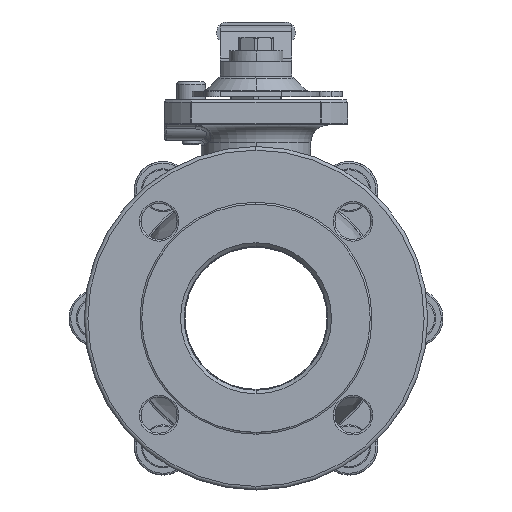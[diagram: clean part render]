
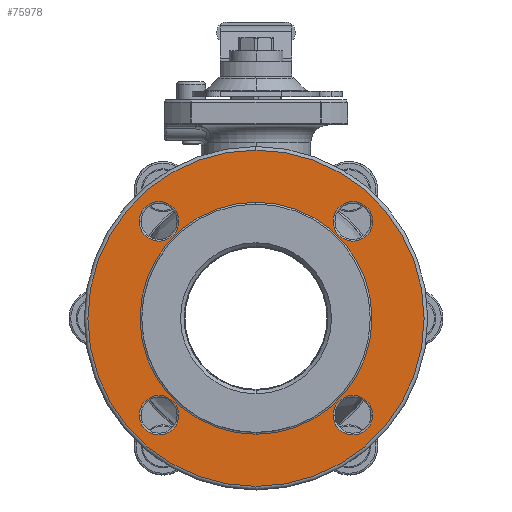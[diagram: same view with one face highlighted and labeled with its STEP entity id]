
A CAD part, left-side view. The second image highlights one B-rep face of the part: STEP entity #75978.
In plain terms, the highlighted planar face has unit normal (-1, 0, 0).
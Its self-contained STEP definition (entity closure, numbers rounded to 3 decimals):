
#17995=CARTESIAN_POINT('',(-81.4,0.,0.));
#17996=DIRECTION('',(1.,0.,0.));
#17997=DIRECTION('',(0.,0.,1.));
#17998=AXIS2_PLACEMENT_3D('',#17995,#17996,#17997);
#18010=CARTESIAN_POINT('',(-81.4,0.,0.));
#18011=DIRECTION('',(1.,0.,0.));
#18012=DIRECTION('',(0.,0.,-1.));
#18013=AXIS2_PLACEMENT_3D('',#18010,#18011,#18012);
#18028=CARTESIAN_POINT('',(-81.4,0.,0.));
#18029=DIRECTION('',(-1.,0.,0.));
#18030=DIRECTION('',(0.,0.,-1.));
#18031=AXIS2_PLACEMENT_3D('',#18028,#18029,#18030);
#18043=CARTESIAN_POINT('',(-81.4,0.,0.));
#18044=DIRECTION('',(-1.,0.,0.));
#18045=DIRECTION('',(0.,0.,1.));
#18046=AXIS2_PLACEMENT_3D('',#18043,#18044,#18045);
#18086=CARTESIAN_POINT('',(-81.4,53.882,53.882));
#18087=DIRECTION('',(1.,0.,0.));
#18088=DIRECTION('',(0.,1.,0.));
#18089=AXIS2_PLACEMENT_3D('',#18086,#18087,#18088);
#18101=CARTESIAN_POINT('',(-81.4,53.882,53.882));
#18102=DIRECTION('',(1.,0.,0.));
#18103=DIRECTION('',(0.,-1.,0.));
#18104=AXIS2_PLACEMENT_3D('',#18101,#18102,#18103);
#18154=CARTESIAN_POINT('',(-81.4,53.882,-53.882));
#18155=DIRECTION('',(1.,0.,0.));
#18156=DIRECTION('',(0.,1.,0.));
#18157=AXIS2_PLACEMENT_3D('',#18154,#18155,#18156);
#18169=CARTESIAN_POINT('',(-81.4,53.882,-53.882));
#18170=DIRECTION('',(1.,0.,0.));
#18171=DIRECTION('',(0.,-1.,0.));
#18172=AXIS2_PLACEMENT_3D('',#18169,#18170,#18171);
#18222=CARTESIAN_POINT('',(-81.4,-53.882,-53.882));
#18223=DIRECTION('',(1.,0.,0.));
#18224=DIRECTION('',(0.,-1.,0.));
#18225=AXIS2_PLACEMENT_3D('',#18222,#18223,#18224);
#18237=CARTESIAN_POINT('',(-81.4,-53.882,-53.882));
#18238=DIRECTION('',(1.,0.,0.));
#18239=DIRECTION('',(0.,1.,0.));
#18240=AXIS2_PLACEMENT_3D('',#18237,#18238,#18239);
#18290=CARTESIAN_POINT('',(-81.4,-53.882,53.882));
#18291=DIRECTION('',(1.,0.,0.));
#18292=DIRECTION('',(0.,1.,0.));
#18293=AXIS2_PLACEMENT_3D('',#18290,#18291,#18292);
#18305=CARTESIAN_POINT('',(-81.4,-53.882,53.882));
#18306=DIRECTION('',(1.,0.,0.));
#18307=DIRECTION('',(0.,-1.,0.));
#18308=AXIS2_PLACEMENT_3D('',#18305,#18306,#18307);
#41803=CARTESIAN_POINT('',(-81.4,0.,-93.5));
#41804=CARTESIAN_POINT('',(-81.4,0.,93.5));
#41805=VERTEX_POINT('',#41803);
#41806=VERTEX_POINT('',#41804);
#42373=CARTESIAN_POINT('',(-81.4,64.882,53.882));
#42374=CARTESIAN_POINT('',(-81.4,42.882,53.882));
#42375=VERTEX_POINT('',#42373);
#42376=VERTEX_POINT('',#42374);
#42389=CARTESIAN_POINT('',(-81.4,64.882,-53.882));
#42390=CARTESIAN_POINT('',(-81.4,42.882,-53.882));
#42391=VERTEX_POINT('',#42389);
#42392=VERTEX_POINT('',#42390);
#42397=CARTESIAN_POINT('',(-81.4,-64.882,-53.882));
#42398=CARTESIAN_POINT('',(-81.4,-42.882,-53.882));
#42399=VERTEX_POINT('',#42397);
#42400=VERTEX_POINT('',#42398);
#42405=CARTESIAN_POINT('',(-81.4,-42.882,53.882));
#42406=CARTESIAN_POINT('',(-81.4,-64.882,53.882));
#42407=VERTEX_POINT('',#42405);
#42408=VERTEX_POINT('',#42406);
#42473=CARTESIAN_POINT('',(-81.4,0.,-64.5));
#42474=CARTESIAN_POINT('',(-81.4,0.,64.5));
#42475=VERTEX_POINT('',#42473);
#42476=VERTEX_POINT('',#42474);
#75939=CARTESIAN_POINT('',(-81.4,0.,0.));
#75940=DIRECTION('',(-1.,0.,0.));
#75941=DIRECTION('',(0.,0.,1.));
#75942=AXIS2_PLACEMENT_3D('',#75939,#75940,#75941);
#75943=PLANE('',#75942);
#75944=ORIENTED_EDGE('',*,*,#75921,.T.);
#75945=ORIENTED_EDGE('',*,*,#75906,.T.);
#75946=EDGE_LOOP('',(#75944,#75945));
#75947=FACE_OUTER_BOUND('',#75946,.F.);
#75949=ORIENTED_EDGE('',*,*,#75948,.T.);
#75951=ORIENTED_EDGE('',*,*,#75950,.T.);
#75952=EDGE_LOOP('',(#75949,#75951));
#75953=FACE_BOUND('',#75952,.F.);
#75955=ORIENTED_EDGE('',*,*,#75954,.F.);
#75957=ORIENTED_EDGE('',*,*,#75956,.F.);
#75958=EDGE_LOOP('',(#75955,#75957));
#75959=FACE_BOUND('',#75958,.F.);
#75961=ORIENTED_EDGE('',*,*,#75960,.F.);
#75963=ORIENTED_EDGE('',*,*,#75962,.F.);
#75964=EDGE_LOOP('',(#75961,#75963));
#75965=FACE_BOUND('',#75964,.F.);
#75967=ORIENTED_EDGE('',*,*,#75966,.F.);
#75969=ORIENTED_EDGE('',*,*,#75968,.F.);
#75970=EDGE_LOOP('',(#75967,#75969));
#75971=FACE_BOUND('',#75970,.F.);
#75973=ORIENTED_EDGE('',*,*,#75972,.F.);
#75975=ORIENTED_EDGE('',*,*,#75974,.F.);
#75976=EDGE_LOOP('',(#75973,#75975));
#75977=FACE_BOUND('',#75976,.F.);
#75978=ADVANCED_FACE('',(#75947,#75953,#75959,#75965,#75971,#75977),#75943,.T.);
#17999=CIRCLE('',#17998,93.5);
#18014=CIRCLE('',#18013,93.5);
#18032=CIRCLE('',#18031,64.5);
#18047=CIRCLE('',#18046,64.5);
#18090=CIRCLE('',#18089,11.);
#18105=CIRCLE('',#18104,11.);
#18158=CIRCLE('',#18157,11.);
#18173=CIRCLE('',#18172,11.);
#18226=CIRCLE('',#18225,11.);
#18241=CIRCLE('',#18240,11.);
#18294=CIRCLE('',#18293,11.);
#18309=CIRCLE('',#18308,11.);
#75906=EDGE_CURVE('',#41806,#41805,#17999,.T.);
#75921=EDGE_CURVE('',#41805,#41806,#18014,.T.);
#75948=EDGE_CURVE('',#42475,#42476,#18032,.T.);
#75950=EDGE_CURVE('',#42476,#42475,#18047,.T.);
#75954=EDGE_CURVE('',#42375,#42376,#18090,.T.);
#75956=EDGE_CURVE('',#42376,#42375,#18105,.T.);
#75960=EDGE_CURVE('',#42391,#42392,#18158,.T.);
#75962=EDGE_CURVE('',#42392,#42391,#18173,.T.);
#75966=EDGE_CURVE('',#42399,#42400,#18226,.T.);
#75968=EDGE_CURVE('',#42400,#42399,#18241,.T.);
#75972=EDGE_CURVE('',#42407,#42408,#18294,.T.);
#75974=EDGE_CURVE('',#42408,#42407,#18309,.T.);
